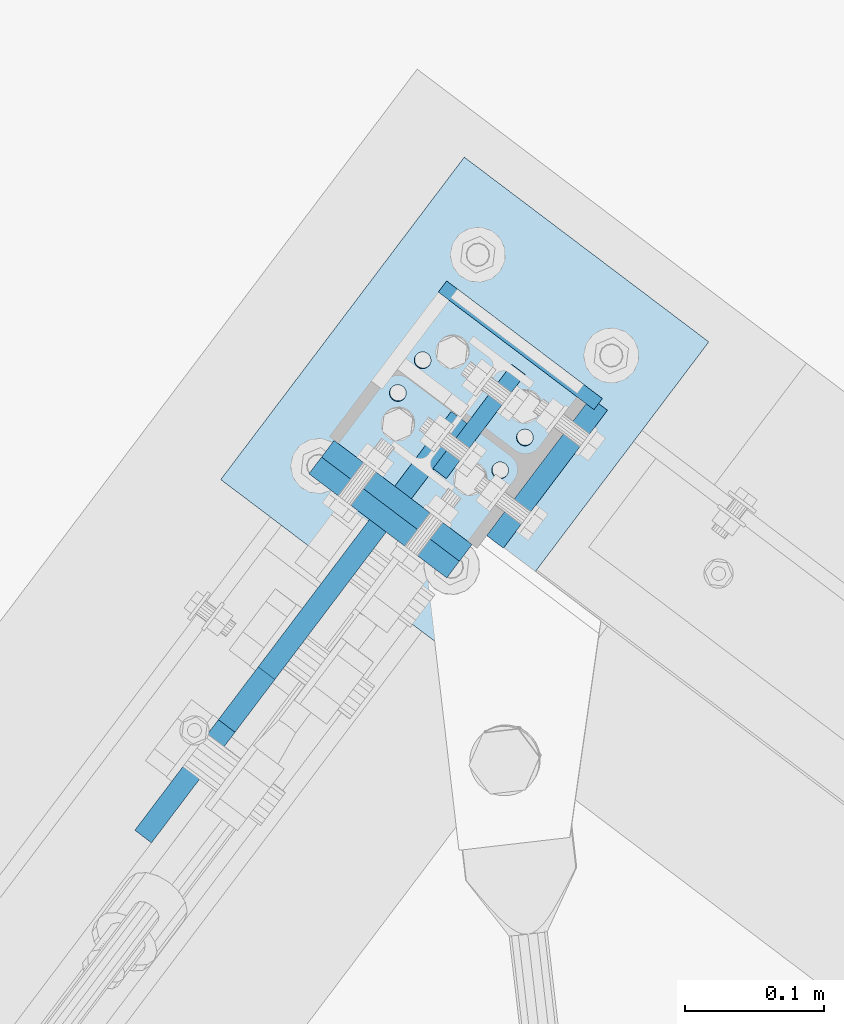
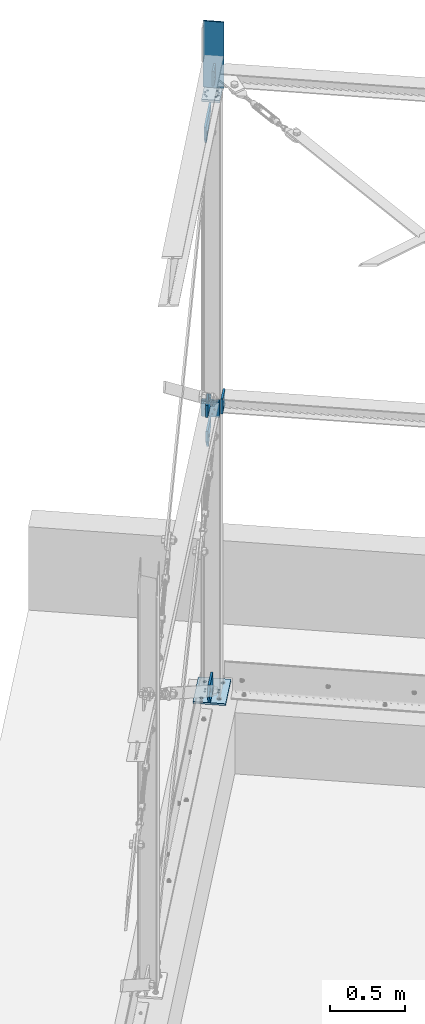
# One storey, part 72 of 476: 11 plates, 41 openings.
"""IFC2X3 building model written with IfcOpenShell, lengths in millimetres."""

from ifc_helpers import new_model, entity, si_unit, converted_unit, frame, frame_2d, origin, origin_with_axes, origin_2d_with_axis, place, context, project, spatial, polyline, circle, outline, extrude, material, layer, layer_set, element, save


model = new_model("IFC2X3")

# Units and contexts
model_context = context("Model", 3, precision=1e-09, world=origin_with_axes())
ifc_project = project(units=[si_unit("LENGTHUNIT", "METRE", prefix="MILLI"), si_unit("AREAUNIT", "SQUARE_METRE"), si_unit("VOLUMEUNIT", "CUBIC_METRE"), converted_unit("PLANEANGLEUNIT", "DEGREE", entity("IfcPlaneAngleMeasure", 0.01745329), si_unit("PLANEANGLEUNIT", "RADIAN"), dimensions=[0, 0, 0, 0, 0, 0, 0])], contexts=[model_context])

# Site, building, storey
site_placement = place(None, origin_with_axes())
site = spatial("IfcSite", under=ifc_project, at=site_placement, Name="mKR Teilneubau & Sanierung BA1 - Ostfildern", CompositionType="ELEMENT")
building_placement = place(site_placement, origin_with_axes())
building = spatial("IfcBuilding", under=site, at=building_placement, Name="Struktur 1", CompositionType="ELEMENT")
storey_placement = place(building_placement, origin_with_axes())
storey = spatial("IfcBuildingStorey", under=building, at=storey_placement, Name="Default Storey", CompositionType="ELEMENT", Elevation=0.0)

# Plate, opening
ifc_material = material(Name="S235JR")
ifc_layer_1 = layer(ifc_material, 15.0)
ifc_layer_set_1 = layer_set([ifc_layer_1], Name="S235JR")
plate_1_placement = place(None, frame((8506.472516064, 10958.635229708, 5415.780237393), z_axis=(-0.797941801, 0.602734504, 0.0), x_axis=(0.0, 0.0, -1.0)))
plate_1 = element("IfcPlate", 1, at=plate_1_placement, inside=storey, material=ifc_layer_set_1, Name="-", ObjectType="-", context=model_context, shape_type="SweptSolid", body=[
    extrude(outline(polyline([(0.0, 0.0), (50.0, 0.0), (165.421940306, 230.800065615), (101.93401257, 279.475347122), (8.39977335, 279.475347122), (0.0, 0.0)])), origin_with_axes(), (0.0, 0.0, 1.0), 15.0),
])
opening_1_placement = place(plate_1_placement, frame((97.171515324, 207.521760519, -0.499999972), z_axis=(0.0, 0.0, 1.0), x_axis=(0.608441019, 0.793599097, 0.0)))
element("IfcOpeningElement", 2, at=opening_1_placement, cuts=plate_1, ObjectType="Opening", context=model_context, shape_type="SweptSolid", body=[
    extrude(circle(Radius=16.001, at=origin_2d_with_axis()), origin(), (0.0, 0.0, 1.0), 16.0),
])

plate_2_placement = place(None, frame((8506.472499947, 10958.635241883, 2855.000000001), z_axis=(-0.797941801, 0.602734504, 0.0), x_axis=(0.0, 0.0, -1.0)))
plate_2 = element("IfcPlate", 3, at=plate_2_placement, inside=storey, material=ifc_layer_set_1, Name="-", ObjectType="-", context=model_context, shape_type="SweptSolid", body=[
    extrude(outline(polyline([(0.0, 0.0), (60.204013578, 0.0), (152.720460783, 134.709788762), (86.775053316, 179.999999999), (1e-09, 180.0), (0.0, 0.0)])), origin_with_axes(), (0.0, 0.0, 1.0), 15.0),
])
opening_2_placement = place(plate_2_placement, frame((85.780103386, 107.895835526, -0.499999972), z_axis=(0.0, 0.0, 1.0), x_axis=(0.566127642, 0.824317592, 0.0)))
element("IfcOpeningElement", 4, at=opening_2_placement, cuts=plate_2, ObjectType="Opening", context=model_context, shape_type="SweptSolid", body=[
    extrude(circle(Radius=16.001, at=origin_2d_with_axis()), origin(), (0.0, 0.0, 1.0), 16.0),
])

plate_3_placement = place(None, frame((8494.503372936, 10967.676259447, 2969.000000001), z_axis=(0.797941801, -0.602734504, 0.0), x_axis=(0.0, 0.0, 1.0)))
plate_3 = element("IfcPlate", 5, at=plate_3_placement, inside=storey, material=ifc_layer_set_1, Name="-", ObjectType="-", context=model_context, shape_type="SweptSolid", body=[
    extrude(outline(polyline([(0.0, 0.0), (66.344713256, 0.0), (163.987191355, 132.552927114), (99.576204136, 180.0), (0.0, 180.0), (0.0, 0.0)])), origin_with_axes(), (0.0, 0.0, 1.0), 15.0),
])
opening_3_placement = place(plate_3_placement, frame((96.196393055, 107.9682232, 15.499999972), z_axis=(0.0, 0.0, -1.0), x_axis=(0.593088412, 0.80513734, 0.0)))
element("IfcOpeningElement", 6, at=opening_3_placement, cuts=plate_3, ObjectType="Opening", context=model_context, shape_type="SweptSolid", body=[
    extrude(circle(Radius=16.001, at=origin_2d_with_axis()), origin(), (0.0, 0.0, 1.0), 16.0),
])

# Plate, openings
plate_4_placement = place(None, frame((8553.119906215, 11045.276897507, 545.0), z_axis=(0.797941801, -0.602734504, 0.0), x_axis=(0.0, 0.0, 1.0)))
plate_4 = element("IfcPlate", 7, at=plate_4_placement, inside=storey, material=ifc_layer_set_1, Name="-", ObjectType="-", context=model_context, shape_type="SweptSolid", body=[
    extrude(outline(polyline([(0.0, 0.0), (155.808276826, 0.0), (155.808276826, 153.459788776), (89.862869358, 198.75), (0.0, 138.75), (0.0, 0.0)])), origin_with_axes(), (0.0, 0.0, 1.0), 15.0),
])
opening_4_placement = place(plate_4_placement, frame((88.867914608, 126.64583885, 15.499999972), z_axis=(0.0, 0.0, -1.0), x_axis=(0.566127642, 0.824317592, 0.0)))
element("IfcOpeningElement", 8, at=opening_4_placement, cuts=plate_4, ObjectType="Opening", context=model_context, shape_type="SweptSolid", body=[
    extrude(circle(Radius=16.001, at=origin_2d_with_axis()), origin(), (0.0, 0.0, 1.0), 16.0),
])
opening_5_placement = place(plate_4_placement, frame((0.0, 0.0, -0.01), z_axis=(0.0, 0.0, 1.0), x_axis=(1.0, 0.0, 0.0)))
element("IfcOpeningElement", 9, at=opening_5_placement, cuts=plate_4, ObjectType="Opening", context=model_context, shape_type="SweptSolid", body=[
    extrude(outline(polyline([(0.0, 0.0), (20.0, 0.0), (0.0, 20.0), (0.0, 0.0)])), origin(), (0.0, 0.0, 1.0), 15.02),
])

plate_5_placement = place(None, frame((8387.701475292, 10996.342747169, 545.0), z_axis=(0.0, 0.0, -1.0), x_axis=(0.602734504, 0.797941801, 0.0)))
plate_5 = element("IfcPlate", 10, at=plate_5_placement, inside=storey, material=ifc_layer_set_1, Name="Baseplate", ObjectType="Baseplate", context=model_context, shape_type="SweptSolid", body=[
    extrude(outline(polyline([(0.0, 0.0), (290.0, 0.0), (290.0, 220.0), (0.0, 220.0), (0.0, 0.0)])), origin_with_axes(), (0.0, 0.0, 1.0), 15.0),
])
opening_6_placement = place(plate_5_placement, frame((50.0, 170.0, 15.5), z_axis=(0.0, 0.0, -1.0), x_axis=(1.0, 0.0, 0.0)))
element("IfcOpeningElement", 11, at=opening_6_placement, cuts=plate_5, ObjectType="Opening", context=model_context, shape_type="SweptSolid", body=[
    extrude(circle(Radius=11.001, at=frame_2d((190.0, 120.0), x_axis=(1.0, 0.0))), origin(), (0.0, 0.0, 1.0), 16.0),
])
opening_7_placement = place(plate_5_placement, frame((50.0, 170.0, 15.5), z_axis=(0.0, 0.0, -1.0), x_axis=(1.0, 0.0, 0.0)))
element("IfcOpeningElement", 12, at=opening_7_placement, cuts=plate_5, ObjectType="Opening", context=model_context, shape_type="SweptSolid", body=[
    extrude(circle(Radius=11.001, at=frame_2d((0.0, 120.0), x_axis=(1.0, 0.0))), origin(), (0.0, 0.0, 1.0), 16.0),
])
opening_8_placement = place(plate_5_placement, frame((50.0, 170.0, 15.5), z_axis=(0.0, 0.0, -1.0), x_axis=(1.0, 0.0, 0.0)))
element("IfcOpeningElement", 13, at=opening_8_placement, cuts=plate_5, ObjectType="Opening", context=model_context, shape_type="SweptSolid", body=[
    extrude(circle(Radius=11.001, at=frame_2d((190.0, 0.0), x_axis=(1.0, 0.0))), origin(), (0.0, 0.0, 1.0), 16.0),
])
opening_9_placement = place(plate_5_placement, frame((50.0, 170.0, 15.5), z_axis=(0.0, 0.0, -1.0), x_axis=(1.0, 0.0, 0.0)))
element("IfcOpeningElement", 14, at=opening_9_placement, cuts=plate_5, ObjectType="Opening", context=model_context, shape_type="SweptSolid", body=[
    extrude(circle(Radius=11.001, at=origin_2d_with_axis()), origin(), (0.0, 0.0, 1.0), 16.0),
])
opening_10_placement = place(plate_5_placement, frame((156.25, 156.0, 15.5), z_axis=(0.0, 0.0, -1.0), x_axis=(0.0, 1.0, 0.0)))
element("IfcOpeningElement", 15, at=opening_10_placement, cuts=plate_5, ObjectType="Opening", context=model_context, shape_type="SweptSolid", body=[
    extrude(circle(Radius=6.001, at=origin_2d_with_axis()), origin(), (0.0, 0.0, 1.0), 16.0),
])
opening_11_placement = place(plate_5_placement, frame((156.25, 64.0, 15.5), z_axis=(0.0, 0.0, -1.0), x_axis=(0.0, 1.0, 0.0)))
element("IfcOpeningElement", 16, at=opening_11_placement, cuts=plate_5, ObjectType="Opening", context=model_context, shape_type="SweptSolid", body=[
    extrude(circle(Radius=6.001, at=origin_2d_with_axis()), origin(), (0.0, 0.0, 1.0), 16.0),
])
opening_12_placement = place(plate_5_placement, frame((126.75, 64.0, 15.5), z_axis=(0.0, 0.0, -1.0), x_axis=(0.0, 1.0, 0.0)))
element("IfcOpeningElement", 17, at=opening_12_placement, cuts=plate_5, ObjectType="Opening", context=model_context, shape_type="SweptSolid", body=[
    extrude(circle(Radius=6.001, at=origin_2d_with_axis()), origin(), (0.0, 0.0, 1.0), 16.0),
])
opening_13_placement = place(plate_5_placement, frame((126.75, 156.0, 15.5), z_axis=(0.0, 0.0, -1.0), x_axis=(0.0, 1.0, 0.0)))
element("IfcOpeningElement", 18, at=opening_13_placement, cuts=plate_5, ObjectType="Opening", context=model_context, shape_type="SweptSolid", body=[
    extrude(circle(Radius=6.001, at=origin_2d_with_axis()), origin(), (0.0, 0.0, 1.0), 16.0),
])

plate_6_placement = place(None, frame((8500.488539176, 10963.156548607, 2912.000000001), z_axis=(0.602734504, 0.797941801, 0.0), x_axis=(0.0, 0.0, -1.0)))
plate_6 = element("IfcPlate", 19, at=plate_6_placement, inside=storey, material=ifc_layer_set_1, Name="Endplate#1", ObjectType="Endplate#1", context=model_context, shape_type="SweptSolid", body=[
    extrude(outline(polyline([(-62.0, -62.0), (62.0, -62.0), (62.0, 62.0), (-62.0, 62.0), (-62.0, -62.0)])), origin_with_axes(), (0.0, 0.0, 1.0), 15.0),
])
opening_14_placement = place(plate_6_placement, frame((-37.0, -14.5, 15.5), z_axis=(0.0, 0.0, -1.0), x_axis=(1.0, 0.0, 0.0)))
element("IfcOpeningElement", 20, at=opening_14_placement, cuts=plate_6, ObjectType="Opening", context=model_context, shape_type="SweptSolid", body=[
    extrude(circle(Radius=6.001, at=origin_2d_with_axis()), origin(), (0.0, 0.0, 1.0), 16.0),
])
opening_15_placement = place(plate_6_placement, frame((37.0, -14.5, 15.5), z_axis=(0.0, 0.0, -1.0), x_axis=(1.0, 0.0, 0.0)))
element("IfcOpeningElement", 21, at=opening_15_placement, cuts=plate_6, ObjectType="Opening", context=model_context, shape_type="SweptSolid", body=[
    extrude(circle(Radius=6.001, at=origin_2d_with_axis()), origin(), (0.0, 0.0, 1.0), 16.0),
])
opening_16_placement = place(plate_6_placement, frame((37.0, 14.5, 15.5), z_axis=(0.0, 0.0, -1.0), x_axis=(1.0, 0.0, 0.0)))
element("IfcOpeningElement", 22, at=opening_16_placement, cuts=plate_6, ObjectType="Opening", context=model_context, shape_type="SweptSolid", body=[
    extrude(circle(Radius=6.001, at=origin_2d_with_axis()), origin(), (0.0, 0.0, 1.0), 16.0),
])
opening_17_placement = place(plate_6_placement, frame((-37.0, 14.5, 15.5), z_axis=(0.0, 0.0, -1.0), x_axis=(1.0, 0.0, 0.0)))
element("IfcOpeningElement", 23, at=opening_17_placement, cuts=plate_6, ObjectType="Opening", context=model_context, shape_type="SweptSolid", body=[
    extrude(circle(Radius=6.001, at=origin_2d_with_axis()), origin(), (0.0, 0.0, 1.0), 16.0),
])
opening_18_placement = place(plate_6_placement, frame((0.0, 30.0, 15.5), z_axis=(0.0, 0.0, -1.0), x_axis=(-1.0, 0.0, 0.0)))
element("IfcOpeningElement", 24, at=opening_18_placement, cuts=plate_6, ObjectType="Opening", context=model_context, shape_type="SweptSolid", body=[
    extrude(circle(Radius=7.001, at=origin_2d_with_axis()), origin(), (0.0, 0.0, 1.0), 16.0),
])
opening_19_placement = place(plate_6_placement, frame((0.0, -30.0, 15.5), z_axis=(0.0, 0.0, -1.0), x_axis=(0.0, -1.0, 0.0)))
element("IfcOpeningElement", 25, at=opening_19_placement, cuts=plate_6, ObjectType="Opening", context=model_context, shape_type="SweptSolid", body=[
    extrude(circle(Radius=7.001, at=origin_2d_with_axis()), origin(), (0.0, 0.0, 1.0), 16.0),
])

plate_7_placement = place(None, frame((8518.570590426, 10987.094790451, 2912.000000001), z_axis=(-0.602734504, -0.797941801, 0.0), x_axis=(-0.797941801, 0.602734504, 0.0)))
plate_7 = element("IfcPlate", 26, at=plate_7_placement, inside=storey, material=ifc_layer_set_1, Name="T-plate", ObjectType="T-plate", context=model_context, shape_type="SweptSolid", body=[
    extrude(outline(polyline([(-62.0, -62.0), (62.0, -62.0), (62.0, 62.0), (-62.0, 62.0), (-62.0, -62.0)])), origin_with_axes(), (0.0, 0.0, 1.0), 15.0),
])
opening_20_placement = place(plate_7_placement, frame((30.000020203, 0.0, -0.5), z_axis=(0.0, 0.0, 1.0), x_axis=(0.0, -1.0, 0.0)))
element("IfcOpeningElement", 27, at=opening_20_placement, cuts=plate_7, ObjectType="Opening", context=model_context, shape_type="SweptSolid", body=[
    extrude(circle(Radius=7.001, at=origin_2d_with_axis()), origin(), (0.0, 0.0, 1.0), 16.0),
])
opening_21_placement = place(plate_7_placement, frame((-29.999979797, 0.0, -0.5), z_axis=(0.0, 0.0, 1.0), x_axis=(-1.0, 0.0, 0.0)))
element("IfcOpeningElement", 28, at=opening_21_placement, cuts=plate_7, ObjectType="Opening", context=model_context, shape_type="SweptSolid", body=[
    extrude(circle(Radius=7.001, at=origin_2d_with_axis()), origin(), (0.0, 0.0, 1.0), 16.0),
])

plate_8_placement = place(None, frame((8627.903850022, 10996.620672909, 2912.000000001), z_axis=(-0.797941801, 0.602734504, 0.0), x_axis=(0.0, 0.0, -1.0)))
plate_8 = element("IfcPlate", 29, at=plate_8_placement, inside=storey, material=ifc_layer_set_1, Name="Endplate#1", ObjectType="Endplate#1", context=model_context, shape_type="SweptSolid", body=[
    extrude(outline(polyline([(-62.0, -62.0), (62.0, -62.0), (62.0, 62.0), (-62.0, 62.0), (-62.0, -62.0)])), origin_with_axes(), (0.0, 0.0, 1.0), 15.0),
])
opening_22_placement = place(plate_8_placement, frame((37.0, 14.5, 15.5), z_axis=(0.0, 0.0, -1.0), x_axis=(-1.0, 0.0, 0.0)))
element("IfcOpeningElement", 30, at=opening_22_placement, cuts=plate_8, ObjectType="Opening", context=model_context, shape_type="SweptSolid", body=[
    extrude(circle(Radius=6.001, at=origin_2d_with_axis()), origin(), (0.0, 0.0, 1.0), 16.0),
])
opening_23_placement = place(plate_8_placement, frame((-37.0, 14.5, 15.5), z_axis=(0.0, 0.0, -1.0), x_axis=(-1.0, 0.0, 0.0)))
element("IfcOpeningElement", 31, at=opening_23_placement, cuts=plate_8, ObjectType="Opening", context=model_context, shape_type="SweptSolid", body=[
    extrude(circle(Radius=6.001, at=origin_2d_with_axis()), origin(), (0.0, 0.0, 1.0), 16.0),
])
opening_24_placement = place(plate_8_placement, frame((-37.0, -14.5, 15.5), z_axis=(0.0, 0.0, -1.0), x_axis=(-1.0, 0.0, 0.0)))
element("IfcOpeningElement", 32, at=opening_24_placement, cuts=plate_8, ObjectType="Opening", context=model_context, shape_type="SweptSolid", body=[
    extrude(circle(Radius=6.001, at=origin_2d_with_axis()), origin(), (0.0, 0.0, 1.0), 16.0),
])
opening_25_placement = place(plate_8_placement, frame((37.0, -14.5, 15.5), z_axis=(0.0, 0.0, -1.0), x_axis=(-1.0, 0.0, 0.0)))
element("IfcOpeningElement", 33, at=opening_25_placement, cuts=plate_8, ObjectType="Opening", context=model_context, shape_type="SweptSolid", body=[
    extrude(circle(Radius=6.001, at=origin_2d_with_axis()), origin(), (0.0, 0.0, 1.0), 16.0),
])
opening_26_placement = place(plate_8_placement, frame((0.0, 35.000001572, 15.5), z_axis=(0.0, 0.0, -1.0), x_axis=(-1.0, 0.0, 0.0)))
element("IfcOpeningElement", 34, at=opening_26_placement, cuts=plate_8, ObjectType="Opening", context=model_context, shape_type="SweptSolid", body=[
    extrude(circle(Radius=7.001, at=origin_2d_with_axis()), origin(), (0.0, 0.0, 1.0), 16.0),
])
opening_27_placement = place(plate_8_placement, frame((0.0, -34.999998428, 15.5), z_axis=(0.0, 0.0, -1.0), x_axis=(0.0, -1.0, 0.0)))
element("IfcOpeningElement", 35, at=opening_27_placement, cuts=plate_8, ObjectType="Opening", context=model_context, shape_type="SweptSolid", body=[
    extrude(circle(Radius=7.001, at=origin_2d_with_axis()), origin(), (0.0, 0.0, 1.0), 16.0),
])

# Plate
ifc_layer_2 = layer(ifc_material, 10.0)
ifc_layer_set_2 = layer_set([ifc_layer_2], Name="S235JR")
plate_9_placement = place(None, frame((8605.745011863, 11096.695475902, 5695.650049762), z_axis=(-0.602734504, -0.797941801, 0.0), x_axis=(0.0, 0.0, 1.0)))
element("IfcPlate", 36, at=plate_9_placement, inside=storey, material=ifc_layer_set_2, Name="-", ObjectType="-", context=model_context, shape_type="SweptSolid", body=[
    extrude(outline(polyline([(-270.060961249, -70.0), (270.060961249, -70.0), (270.060961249, 70.0), (-270.060961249, 70.0), (-270.060961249, -70.0)])), origin_with_axes(), (0.0, 0.0, 1.0), 10.0),
])

# Plate, openings
ifc_layer_3 = layer(ifc_material, 20.0)
ifc_layer_set_3 = layer_set([ifc_layer_3], Name="S235JR")
plate_10_placement = place(None, frame((8560.762005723, 11042.950716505, 5398.776786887), z_axis=(-0.018107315, -0.023971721, 0.999548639), x_axis=(0.797941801, -0.602734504, 0.0)))
plate_10 = element("IfcPlate", 37, at=plate_10_placement, inside=storey, material=ifc_layer_set_3, Name="Endplate", ObjectType="Endplate", context=model_context, shape_type="SweptSolid", body=[
    extrude(outline(polyline([(-61.5, -70.0), (61.5, -70.0), (61.5, 70.0), (-61.5, 70.0), (-61.5, -70.0)])), origin_with_axes(), (0.0, 0.0, 1.0), 20.0),
])
opening_28_placement = place(plate_10_placement, frame((46.0, 14.751241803, 20.5), z_axis=(0.0, 0.0, -1.0), x_axis=(-1.0, 0.0, 0.0)))
element("IfcOpeningElement", 38, at=opening_28_placement, cuts=plate_10, ObjectType="Opening", context=model_context, shape_type="SweptSolid", body=[
    extrude(circle(Radius=6.001, at=origin_2d_with_axis()), origin(), (0.0, 0.0, 1.0), 21.0),
])
opening_29_placement = place(plate_10_placement, frame((-46.0, 14.751241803, 20.5), z_axis=(0.0, 0.0, -1.0), x_axis=(-1.0, 0.0, 0.0)))
element("IfcOpeningElement", 39, at=opening_29_placement, cuts=plate_10, ObjectType="Opening", context=model_context, shape_type="SweptSolid", body=[
    extrude(circle(Radius=6.001, at=origin_2d_with_axis()), origin(), (0.0, 0.0, 1.0), 21.0),
])
opening_30_placement = place(plate_10_placement, frame((-46.0, -14.751241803, 20.5), z_axis=(0.0, 0.0, -1.0), x_axis=(-1.0, 0.0, 0.0)))
element("IfcOpeningElement", 40, at=opening_30_placement, cuts=plate_10, ObjectType="Opening", context=model_context, shape_type="SweptSolid", body=[
    extrude(circle(Radius=6.001, at=origin_2d_with_axis()), origin(), (0.0, 0.0, 1.0), 21.0),
])
opening_31_placement = place(plate_10_placement, frame((46.0, -14.751241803, 20.5), z_axis=(0.0, 0.0, -1.0), x_axis=(-1.0, 0.0, 0.0)))
element("IfcOpeningElement", 41, at=opening_31_placement, cuts=plate_10, ObjectType="Opening", context=model_context, shape_type="SweptSolid", body=[
    extrude(circle(Radius=6.001, at=origin_2d_with_axis()), origin(), (0.0, 0.0, 1.0), 21.0),
])
opening_32_placement = place(plate_10_placement, frame((32.5, -25.499, -0.5), z_axis=(0.0, 0.0, -1.0), x_axis=(-1.0, 0.0, 0.0)))
element("IfcOpeningElement", 42, at=opening_32_placement, cuts=plate_10, ObjectType="Opening", context=model_context, shape_type="SweptSolid", body=[
    extrude(circle(Radius=7.001, at=frame_2d((0.0, -7.001), x_axis=(1.0, 0.0))), origin(), (0.0, 0.0, -1.0), 21.0),
])
opening_33_placement = place(plate_10_placement, frame((-32.5, -25.499, -0.5), z_axis=(0.0, 0.0, -1.0), x_axis=(-1.0, 0.0, 0.0)))
element("IfcOpeningElement", 43, at=opening_33_placement, cuts=plate_10, ObjectType="Opening", context=model_context, shape_type="SweptSolid", body=[
    extrude(circle(Radius=7.001, at=frame_2d((0.0, -7.001), x_axis=(1.0, 0.0))), origin(), (0.0, 0.0, -1.0), 21.0),
])
opening_34_placement = place(plate_10_placement, frame((-32.5, 25.499, -0.5), z_axis=(0.0, 0.0, -1.0), x_axis=(-1.0, 0.0, 0.0)))
element("IfcOpeningElement", 44, at=opening_34_placement, cuts=plate_10, ObjectType="Opening", context=model_context, shape_type="SweptSolid", body=[
    extrude(circle(Radius=7.001, at=frame_2d((0.0, 7.001), x_axis=(1.0, 0.0))), origin(), (0.0, 0.0, -1.0), 21.0),
])
opening_35_placement = place(plate_10_placement, frame((32.5, 25.499, -0.5), z_axis=(0.0, 0.0, -1.0), x_axis=(-1.0, 0.0, 0.0)))
element("IfcOpeningElement", 45, at=opening_35_placement, cuts=plate_10, ObjectType="Opening", context=model_context, shape_type="SweptSolid", body=[
    extrude(circle(Radius=7.001, at=frame_2d((0.0, 7.001), x_axis=(1.0, 0.0))), origin(), (0.0, 0.0, -1.0), 21.0),
])

ifc_layer_4 = layer(ifc_material, 12.0)
ifc_layer_set_4 = layer_set([ifc_layer_4], Name="S235JR")
plate_11_placement = place(None, frame((8594.285758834, 11076.049873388, 5635.311096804), z_axis=(0.797941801, -0.602734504, 0.0), x_axis=(-0.602462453, -0.797581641, -0.030041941)))
plate_11 = element("IfcPlate", 46, at=plate_11_placement, inside=storey, material=ifc_layer_set_4, Name="Endplate", ObjectType="Endplate", context=model_context, shape_type="SweptSolid", body=[
    extrude(outline(polyline([(0.0, 0.0), (90.0, 0.0), (90.0, 124.0), (0.0, 124.0), (0.0, 0.0)])), origin_with_axes(), (0.0, 0.0, 1.0), 12.0),
])
opening_36_placement = place(plate_11_placement, frame((59.5, 99.0, -0.5), z_axis=(0.0, 0.0, 1.0), x_axis=(0.0, -1.0, 0.0)))
element("IfcOpeningElement", 47, at=opening_36_placement, cuts=plate_11, ObjectType="Opening", context=model_context, shape_type="SweptSolid", body=[
    extrude(circle(Radius=6.001, at=origin_2d_with_axis()), origin(), (0.0, 0.0, 1.0), 13.0),
])
opening_37_placement = place(plate_11_placement, frame((59.5, 25.0, -0.5), z_axis=(0.0, 0.0, 1.0), x_axis=(0.0, -1.0, 0.0)))
element("IfcOpeningElement", 48, at=opening_37_placement, cuts=plate_11, ObjectType="Opening", context=model_context, shape_type="SweptSolid", body=[
    extrude(circle(Radius=6.001, at=origin_2d_with_axis()), origin(), (0.0, 0.0, 1.0), 13.0),
])
opening_38_placement = place(plate_11_placement, frame((30.5, 25.0, -0.5), z_axis=(0.0, 0.0, 1.0), x_axis=(0.0, -1.0, 0.0)))
element("IfcOpeningElement", 49, at=opening_38_placement, cuts=plate_11, ObjectType="Opening", context=model_context, shape_type="SweptSolid", body=[
    extrude(circle(Radius=6.001, at=origin_2d_with_axis()), origin(), (0.0, 0.0, 1.0), 13.0),
])
opening_39_placement = place(plate_11_placement, frame((30.5, 99.0, -0.5), z_axis=(0.0, 0.0, 1.0), x_axis=(0.0, -1.0, 0.0)))
element("IfcOpeningElement", 50, at=opening_39_placement, cuts=plate_11, ObjectType="Opening", context=model_context, shape_type="SweptSolid", body=[
    extrude(circle(Radius=6.001, at=origin_2d_with_axis()), origin(), (0.0, 0.0, 1.0), 13.0),
])
opening_40_placement = place(plate_11_placement, frame((70.0, 62.0, -0.5), z_axis=(0.0, 0.0, 1.0), x_axis=(0.0, -1.0, 0.0)))
element("IfcOpeningElement", 51, at=opening_40_placement, cuts=plate_11, ObjectType="Opening", context=model_context, shape_type="SweptSolid", body=[
    extrude(circle(Radius=7.001, at=origin_2d_with_axis()), origin(), (0.0, 0.0, 1.0), 13.0),
])
opening_41_placement = place(plate_11_placement, frame((20.0, 62.0, -0.5), z_axis=(0.0, 0.0, 1.0), x_axis=(0.0, -1.0, 0.0)))
element("IfcOpeningElement", 52, at=opening_41_placement, cuts=plate_11, ObjectType="Opening", context=model_context, shape_type="SweptSolid", body=[
    extrude(circle(Radius=7.001, at=origin_2d_with_axis()), origin(), (0.0, 0.0, 1.0), 13.0),
])

save(model, "model.ifc")
